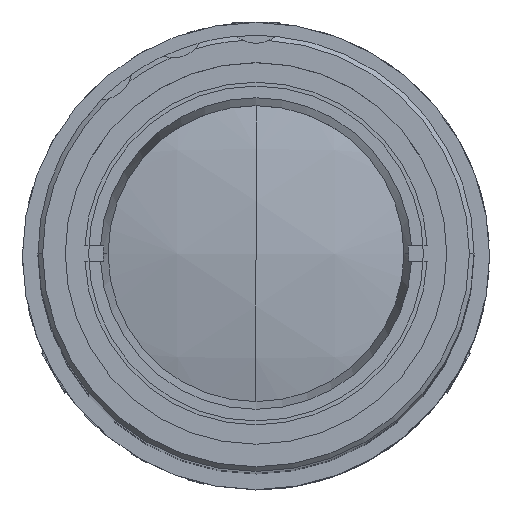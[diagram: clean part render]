
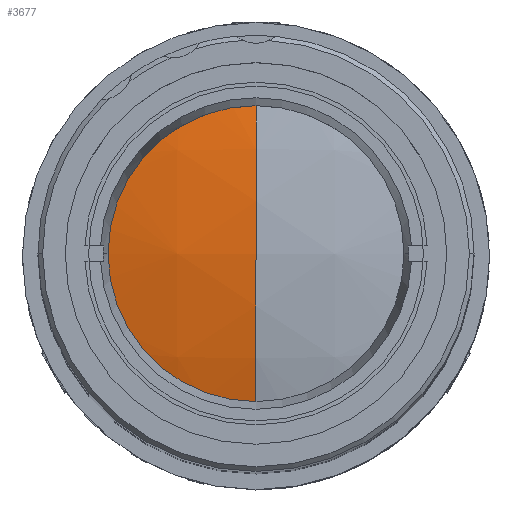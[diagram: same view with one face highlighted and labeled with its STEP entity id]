
A CAD part, top view. The second image highlights one B-rep face of the part: STEP entity #3677.
In plain terms, the highlighted spherical face has radius 39.6 mm.
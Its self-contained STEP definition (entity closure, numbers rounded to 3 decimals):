
#289 = ORIENTED_EDGE ( 'NONE', *, *, #2241, .F. ) ;
#526 = DIRECTION ( 'NONE',  ( -1., 0., 0. ) ) ;
#865 = CARTESIAN_POINT ( 'NONE',  ( 3.457, 0.691, 67.49 ) ) ;
#1204 = FACE_OUTER_BOUND ( 'NONE', #8179, .T. ) ;
#1304 = VERTEX_POINT ( 'NONE', #2028 ) ;
#1379 = VERTEX_POINT ( 'NONE', #9427 ) ;
#1748 = CARTESIAN_POINT ( 'NONE',  ( 3.457, 0.691, 105.807 ) ) ;
#1965 = AXIS2_PLACEMENT_3D ( 'NONE', #8320, #526, #7560 ) ;
#1986 = DIRECTION ( 'NONE',  ( -1., 0., 0. ) ) ;
#2028 = CARTESIAN_POINT ( 'NONE',  ( 3.457, 0.691, 107.09 ) ) ;
#2241 = EDGE_CURVE ( 'NONE', #9597, #1304, #5026, .T. ) ;
#2357 = ORIENTED_EDGE ( 'NONE', *, *, #4481, .T. ) ;
#3166 = AXIS2_PLACEMENT_3D ( 'NONE', #865, #1986, #11975 ) ;
#3677 = ADVANCED_FACE ( 'NONE', ( #1204 ), #5706, .T. ) ;
#4481 = EDGE_CURVE ( 'NONE', #1379, #1304, #10102, .T. ) ;
#4650 = DIRECTION ( 'NONE',  ( 0., 0., 1. ) ) ;
#5026 = CIRCLE ( 'NONE', #6412, 39.6 ) ;
#5706 = SPHERICAL_SURFACE ( 'NONE', #1965, 39.6 ) ;
#6064 = DIRECTION ( 'NONE',  ( 1., 0., 0. ) ) ;
#6412 = AXIS2_PLACEMENT_3D ( 'NONE', #12208, #6064, #12122 ) ;
#7056 = ORIENTED_EDGE ( 'NONE', *, *, #8539, .T. ) ;
#7321 = CARTESIAN_POINT ( 'NONE',  ( 3.457, 10.691, 105.807 ) ) ;
#7527 = CIRCLE ( 'NONE', #8332, 10. ) ;
#7560 = DIRECTION ( 'NONE',  ( 0., 1., 0. ) ) ;
#8179 = EDGE_LOOP ( 'NONE', ( #7056, #2357, #289 ) ) ;
#8320 = CARTESIAN_POINT ( 'NONE',  ( 3.457, 0.691, 67.49 ) ) ;
#8332 = AXIS2_PLACEMENT_3D ( 'NONE', #1748, #4650, #10632 ) ;
#8539 = EDGE_CURVE ( 'NONE', #9597, #1379, #7527, .T. ) ;
#9427 = CARTESIAN_POINT ( 'NONE',  ( 3.457, -9.309, 105.807 ) ) ;
#9597 = VERTEX_POINT ( 'NONE', #7321 ) ;
#10102 = CIRCLE ( 'NONE', #3166, 39.6 ) ;
#10632 = DIRECTION ( 'NONE',  ( 0., -1., 0. ) ) ;
#11975 = DIRECTION ( 'NONE',  ( 0., -1., 0. ) ) ;
#12122 = DIRECTION ( 'NONE',  ( 0., 1., 0. ) ) ;
#12208 = CARTESIAN_POINT ( 'NONE',  ( 3.457, 0.691, 67.49 ) ) ;
